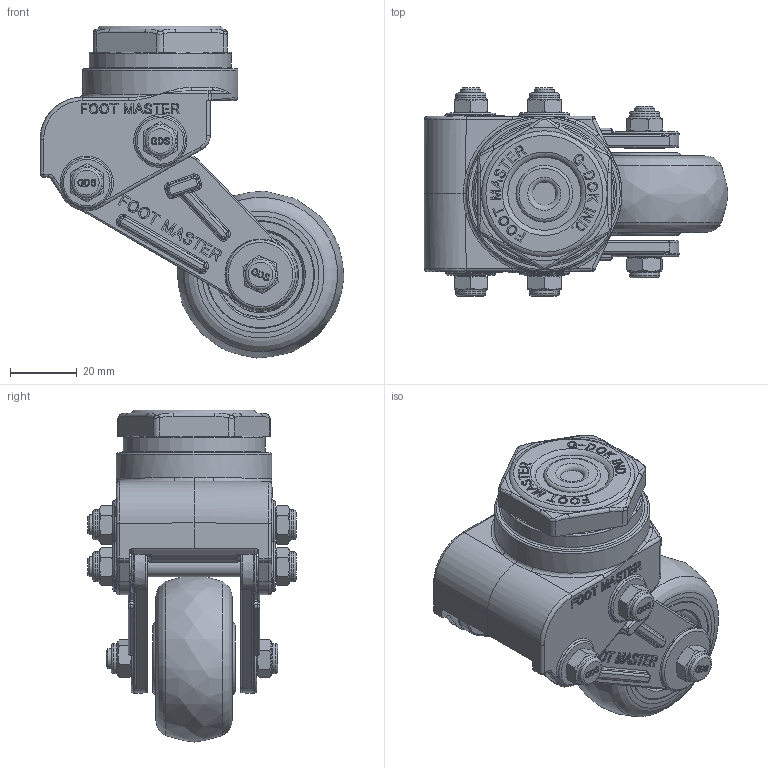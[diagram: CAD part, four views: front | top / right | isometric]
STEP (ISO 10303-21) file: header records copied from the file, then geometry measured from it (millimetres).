
FILE_DESCRIPTION(/* description */ (''),/* implementation_level */ '2;1');
FILE_NAME(/* name */ 'C:\Users\admin\Desktop\JYS\개발품\상세설계_20220328\홈페이지용 도면\GDS-50-ASS-EUS.stp',/* time_stamp */ '2023-03-08T14:35:31+09:00',/* author */ ('admin'),/* organization */ (''),/* preprocessor_version */ 'ST-DEVELOPER v18.1',/* originating_system */ 'Autodesk Inventor 2021',/* authorisation */ '');
FILE_SCHEMA (('AUTOMOTIVE_DESIGN { 1 0 10303 214 3 1 1 }'));
Products named in the file (1): GDS-50_ASS_REV01_Shrinkwrap_1
Bounding box: 90.97 x 62.3 x 99.37 mm (x, y, z)
Volume: 118132.8 mm3; surface area: 40200.5 mm2
Topology: 1 solids, 1 shells, 2085 faces, 5498 edges, 3531 vertices
Faces by surface type: plane 822, bspline 670, cylinder 294, cone 162, torus 117, sphere 20
Full cylindrical faces by diameter (mm): 6 x5, 8.8 x3, 9 x6, 17.216 x2, 18 x1, 20 x2, 22 x2, 22.784 x2, 30 x1, 42.5 x1, 46.5 x1
Entity records: 72619 total; most frequent: CARTESIAN_POINT 23236, ORIENTED_EDGE 10972, DIRECTION 7970, EDGE_CURVE 5486, VERTEX_POINT 3531, AXIS2_PLACEMENT_3D 2669, LINE 2632, VECTOR 2632
